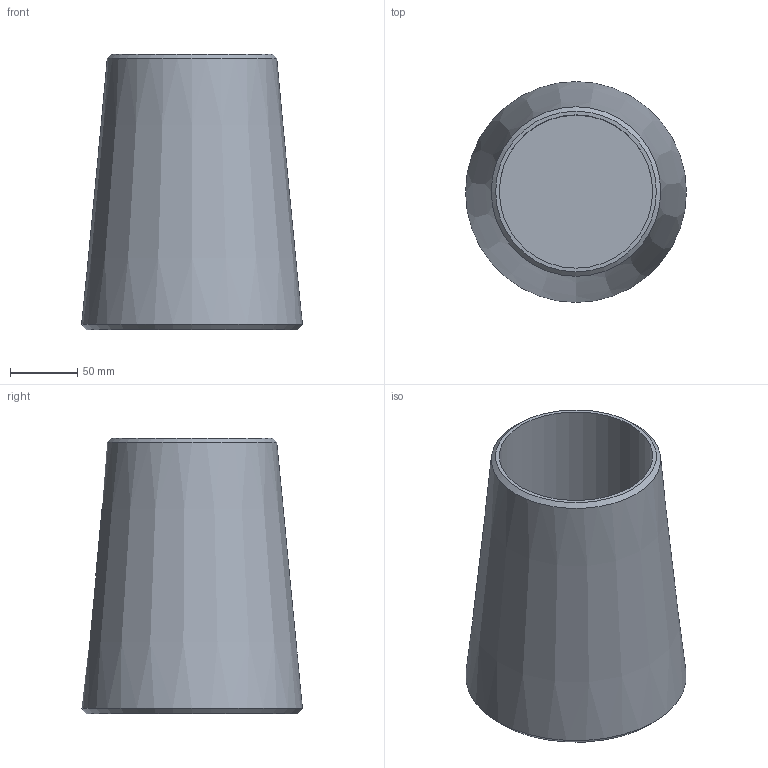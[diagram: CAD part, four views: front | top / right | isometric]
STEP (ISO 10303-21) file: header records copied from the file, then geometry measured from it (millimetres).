
FILE_DESCRIPTION(/* description */ (''),/* implementation_level */ '2;1');
FILE_NAME(/* name */ 'C:\Vault_WS\Designs\SB\01-PX\Verzinkt\ZSS\520 - Kontermutter\520-110-KMU.stp',/* time_stamp */ '2020-06-18T12:38:27+02:00',/* author */ ('schwarz'),/* organization */ (''),/* preprocessor_version */ 'ST-DEVELOPER v16.1',/* originating_system */ 'Autodesk Inventor 2016',/* authorisation */ '');
FILE_SCHEMA (('AUTOMOTIVE_DESIGN { 1 0 10303 214 3 1 1 }'));
Length unit declared in the file: millimetre
Products named in the file (1): Kontermutter 520 110 Kunde
Bounding box: 164.23 x 164.23 x 205 mm (x, y, z)
Volume: 1881410.6 mm3; surface area: 179458 mm2
Topology: 1 solids, 1 shells, 7 faces, 10 edges, 6 vertices
Faces by surface type: cone 3, plane 3, cylinder 1
Full cylindrical faces by diameter (mm): 114 x1
Entity records: 158 total; most frequent: DIRECTION 28, CARTESIAN_POINT 20, AXIS2_PLACEMENT_3D 14, EDGE_LOOP 12, ORIENTED_EDGE 12, FACE_OUTER_BOUND 7, ADVANCED_FACE 7, CIRCLE 6
